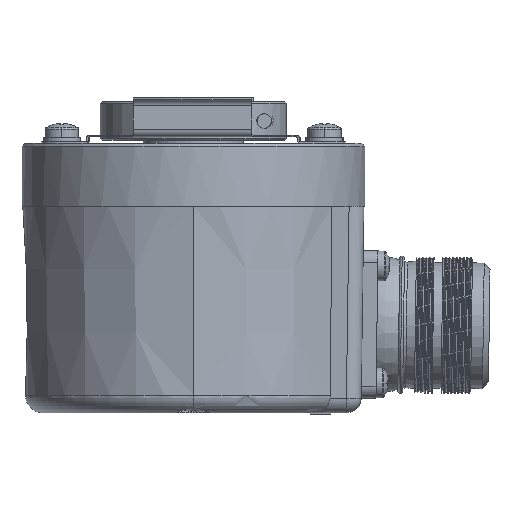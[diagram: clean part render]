
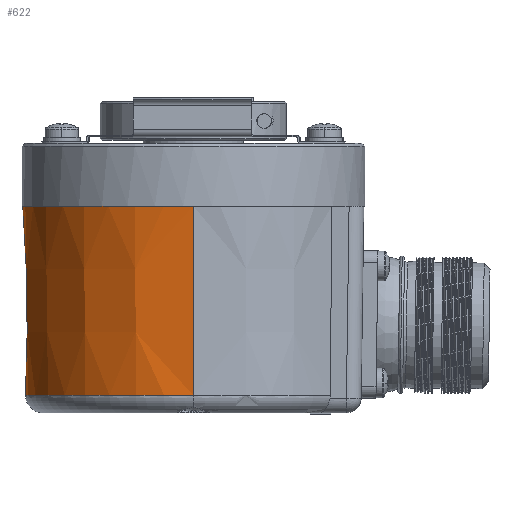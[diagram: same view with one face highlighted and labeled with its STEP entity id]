
A CAD part, left-side view. The second image highlights one B-rep face of the part: STEP entity #622.
In plain terms, the highlighted conical face has half-angle 0.8 degrees and reference radius 29 mm.
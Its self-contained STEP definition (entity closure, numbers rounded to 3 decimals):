
#622 = ADVANCED_FACE ( 'NONE', ( #3020 ), #3854, .T. ) ;
#1456 = CARTESIAN_POINT ( 'NONE',  ( 0., 0., 35. ) ) ;
#2863 = DIRECTION ( 'NONE',  ( -1., 0., 0. ) ) ;
#3020 = FACE_OUTER_BOUND ( 'NONE', #6247, .T. ) ;
#3854 = CONICAL_SURFACE ( 'NONE', #11304, 29., 0.014 ) ;
#4383 = DIRECTION ( 'NONE',  ( -1., 0., 0. ) ) ;
#6247 = EDGE_LOOP ( 'NONE', ( #18767, #16431, #13201, #15273 ) ) ;
#6874 = AXIS2_PLACEMENT_3D ( 'NONE', #1456, #16050, #4383 ) ;
#7791 = CARTESIAN_POINT ( 'NONE',  ( 29., 0., 45. ) ) ;
#7972 = VERTEX_POINT ( 'NONE', #15128 ) ;
#8083 = VERTEX_POINT ( 'NONE', #13403 ) ;
#10587 = VERTEX_POINT ( 'NONE', #25693 ) ;
#11304 = AXIS2_PLACEMENT_3D ( 'NONE', #23846, #16704, #2863 ) ;
#12418 = EDGE_CURVE ( 'NONE', #10587, #14337, #15820, .T. ) ;
#13201 = ORIENTED_EDGE ( 'NONE', *, *, #17738, .T. ) ;
#13403 = CARTESIAN_POINT ( 'NONE',  ( -28.413, 0., 2.958 ) ) ;
#14337 = VERTEX_POINT ( 'NONE', #20050 ) ;
#15128 = CARTESIAN_POINT ( 'NONE',  ( 28.413, 0., 2.958 ) ) ;
#15273 = ORIENTED_EDGE ( 'NONE', *, *, #12418, .F. ) ;
#15820 = CIRCLE ( 'NONE', #6874, 28.86 ) ;
#16050 = DIRECTION ( 'NONE',  ( 0., 0., 1. ) ) ;
#16431 = ORIENTED_EDGE ( 'NONE', *, *, #17146, .T. ) ;
#16704 = DIRECTION ( 'NONE',  ( 0., 0., 1. ) ) ;
#17146 = EDGE_CURVE ( 'NONE', #7972, #8083, #21953, .T. ) ;
#17738 = EDGE_CURVE ( 'NONE', #8083, #14337, #25476, .T. ) ;
#18767 = ORIENTED_EDGE ( 'NONE', *, *, #30248, .F. ) ;
#19333 = CARTESIAN_POINT ( 'NONE',  ( 0., 0., 2.958 ) ) ;
#19775 = DIRECTION ( 'NONE',  ( 0., 0., 1. ) ) ;
#20050 = CARTESIAN_POINT ( 'NONE',  ( -28.86, 0., 35. ) ) ;
#20240 = DIRECTION ( 'NONE',  ( 0.014, 0., 1. ) ) ;
#20988 = CARTESIAN_POINT ( 'NONE',  ( -29., 0., 45. ) ) ;
#21953 = CIRCLE ( 'NONE', #25430, 28.413 ) ;
#23454 = VECTOR ( 'NONE', #30453, 1000. ) ;
#23846 = CARTESIAN_POINT ( 'NONE',  ( 0., 0., 45. ) ) ;
#25430 = AXIS2_PLACEMENT_3D ( 'NONE', #19333, #19775, #28965 ) ;
#25476 = LINE ( 'NONE', #20988, #23454 ) ;
#25693 = CARTESIAN_POINT ( 'NONE',  ( 28.86, 0., 35. ) ) ;
#25910 = VECTOR ( 'NONE', #20240, 1000. ) ;
#26769 = LINE ( 'NONE', #7791, #25910 ) ;
#28965 = DIRECTION ( 'NONE',  ( 1., 0., 0. ) ) ;
#30248 = EDGE_CURVE ( 'NONE', #7972, #10587, #26769, .T. ) ;
#30453 = DIRECTION ( 'NONE',  ( -0.014, 0., 1. ) ) ;
